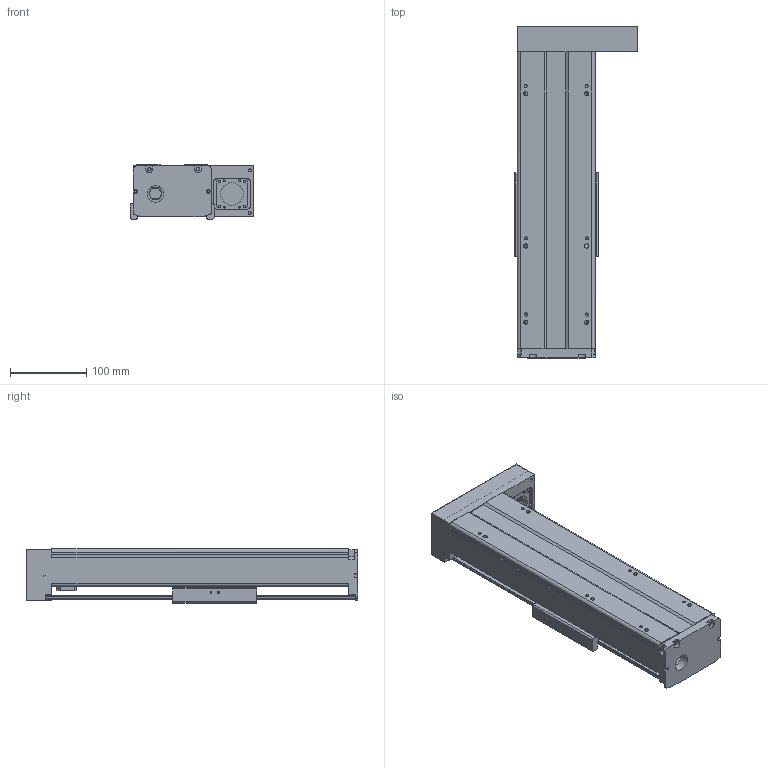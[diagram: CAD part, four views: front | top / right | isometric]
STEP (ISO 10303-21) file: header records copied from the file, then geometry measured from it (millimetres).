
FILE_DESCRIPTION(/* description */ (''),/* implementation_level */ '2;1');
FILE_NAME(/* name */ 'TKA100-FR-200-1_asm1.stp',/* time_stamp */ '2016-05-17T15:29:28+08:00',/* author */ (''),/* organization */ (''),/* preprocessor_version */ 'ST-DEVELOPER v15',/* originating_system */ 'SIEMENS PLM Software NX 8.5',/* authorisation */ '');
FILE_SCHEMA (('AUTOMOTIVE_DESIGN { 1 0 10303 214 3 1 1 1 }'));
Length unit declared in the file: millimetre
Products named in the file (3): 200-2; 200-1; TKA100-FR-200-1_asm1
Assembly tree (2 placements, depth 2):
  TKA100-FR-200-1_asm1
    200-1
    200-2
Bounding box: 162 x 436 x 71 mm (x, y, z)
Volume: 1142744.6 mm3; surface area: 392844.2 mm2
Topology: 2 solids, 16 shells, 778 faces, 2012 edges, 1311 vertices
Faces by surface type: plane 318, cylinder 289, cone 117, torus 28, bspline 26
Full cylindrical faces by diameter (mm): 2.5 x6, 2.6 x8, 3.3 x11, 3.4 x4, 3.8 x8, 4.2 x15, 4.3 x4, 4.5 x6, 5 x2, 5.5 x14, 6.6 x4, 8 x4, 9 x6, 10 x7, 11 x4, 12 x6, 15.3 x1, 16 x1, 22 x1, 24 x1, 28 x2, 30 x1, 33 x1
Entity records: 28494 total; most frequent: CARTESIAN_POINT 10466, DIRECTION 3695, ORIENTED_EDGE 3520, EDGE_CURVE 1760, AXIS2_PLACEMENT_3D 1451, VERTEX_POINT 1238, EDGE_LOOP 1053, LINE 793
